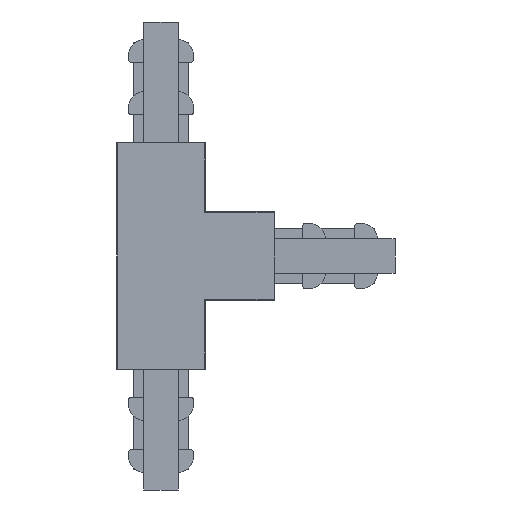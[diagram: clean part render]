
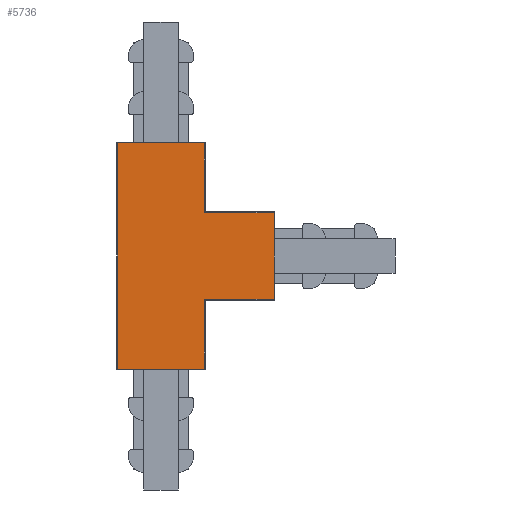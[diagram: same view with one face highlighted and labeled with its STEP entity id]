
A CAD part, front view. The second image highlights one B-rep face of the part: STEP entity #5736.
In plain terms, the highlighted planar face has unit normal (0, -1, 0).
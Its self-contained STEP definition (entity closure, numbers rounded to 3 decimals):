
#80 = DIRECTION ( 'NONE',  ( 0., 0., 1. ) ) ;
#468 = EDGE_CURVE ( 'NONE', #4994, #5615, #571, .T. ) ;
#571 = LINE ( 'NONE', #2514, #1236 ) ;
#598 = DIRECTION ( 'NONE',  ( 0., 1., 0. ) ) ;
#661 = DIRECTION ( 'NONE',  ( 0., 0., -1. ) ) ;
#692 = ORIENTED_EDGE ( 'NONE', *, *, #468, .T. ) ;
#721 = ORIENTED_EDGE ( 'NONE', *, *, #1644, .T. ) ;
#919 = CARTESIAN_POINT ( 'NONE',  ( 482.935, 139.387, 62.208 ) ) ;
#980 = DIRECTION ( 'NONE',  ( 1., 0., 0. ) ) ;
#999 = EDGE_CURVE ( 'NONE', #5786, #4994, #4551, .T. ) ;
#1001 = VECTOR ( 'NONE', #980, 1000. ) ;
#1071 = LINE ( 'NONE', #4955, #1330 ) ;
#1136 = PLANE ( 'NONE',  #3958 ) ;
#1214 = CARTESIAN_POINT ( 'NONE',  ( 420.727, 139.387, 90. ) ) ;
#1236 = VECTOR ( 'NONE', #80, 1000. ) ;
#1258 = CARTESIAN_POINT ( 'NONE',  ( 455.143, 139.387, 27.792 ) ) ;
#1299 = VECTOR ( 'NONE', #2865, 1000. ) ;
#1330 = VECTOR ( 'NONE', #5840, 1000. ) ;
#1532 = LINE ( 'NONE', #3354, #1001 ) ;
#1644 = EDGE_CURVE ( 'NONE', #4143, #3916, #3948, .T. ) ;
#1770 = EDGE_CURVE ( 'NONE', #2075, #3181, #1071, .T. ) ;
#1882 = ORIENTED_EDGE ( 'NONE', *, *, #1770, .F. ) ;
#1906 = ORIENTED_EDGE ( 'NONE', *, *, #999, .T. ) ;
#1972 = DIRECTION ( 'NONE',  ( 0., 0., -1. ) ) ;
#2014 = ORIENTED_EDGE ( 'NONE', *, *, #3224, .F. ) ;
#2075 = VERTEX_POINT ( 'NONE', #3715 ) ;
#2510 = FACE_OUTER_BOUND ( 'NONE', #4972, .T. ) ;
#2514 = CARTESIAN_POINT ( 'NONE',  ( 482.935, 139.387, 27.792 ) ) ;
#2827 = LINE ( 'NONE', #4766, #1299 ) ;
#2865 = DIRECTION ( 'NONE',  ( 1., 0., 0. ) ) ;
#2904 = CARTESIAN_POINT ( 'NONE',  ( 420.727, 139.387, 0. ) ) ;
#3045 = DIRECTION ( 'NONE',  ( 0., 0., 1. ) ) ;
#3181 = VERTEX_POINT ( 'NONE', #6226 ) ;
#3224 = EDGE_CURVE ( 'NONE', #3181, #5615, #1532, .T. ) ;
#3354 = CARTESIAN_POINT ( 'NONE',  ( 433.935, 139.387, 62.208 ) ) ;
#3376 = EDGE_CURVE ( 'NONE', #4794, #4143, #5026, .T. ) ;
#3471 = VECTOR ( 'NONE', #1972, 1000. ) ;
#3589 = DIRECTION ( 'NONE',  ( 1., 0., 0. ) ) ;
#3626 = VECTOR ( 'NONE', #661, 1000. ) ;
#3648 = CARTESIAN_POINT ( 'NONE',  ( 455.143, 139.387, 0. ) ) ;
#3715 = CARTESIAN_POINT ( 'NONE',  ( 455.143, 139.387, 90. ) ) ;
#3916 = VERTEX_POINT ( 'NONE', #3648 ) ;
#3948 = LINE ( 'NONE', #5880, #4191 ) ;
#3958 = AXIS2_PLACEMENT_3D ( 'NONE', #5053, #598, #3045 ) ;
#4143 = VERTEX_POINT ( 'NONE', #2904 ) ;
#4191 = VECTOR ( 'NONE', #5814, 1000. ) ;
#4475 = ORIENTED_EDGE ( 'NONE', *, *, #3376, .T. ) ;
#4551 = LINE ( 'NONE', #5437, #5817 ) ;
#4766 = CARTESIAN_POINT ( 'NONE',  ( 420.727, 139.387, 90. ) ) ;
#4794 = VERTEX_POINT ( 'NONE', #1214 ) ;
#4948 = ORIENTED_EDGE ( 'NONE', *, *, #4973, .F. ) ;
#4955 = CARTESIAN_POINT ( 'NONE',  ( 455.143, 139.387, 90. ) ) ;
#4956 = ORIENTED_EDGE ( 'NONE', *, *, #5886, .F. ) ;
#4972 = EDGE_LOOP ( 'NONE', ( #4948, #1906, #692, #2014, #1882, #4956, #4475, #721 ) ) ;
#4973 = EDGE_CURVE ( 'NONE', #5786, #3916, #5280, .T. ) ;
#4994 = VERTEX_POINT ( 'NONE', #5378 ) ;
#5026 = LINE ( 'NONE', #5054, #3626 ) ;
#5053 = CARTESIAN_POINT ( 'NONE',  ( 420.727, 139.387, 90. ) ) ;
#5054 = CARTESIAN_POINT ( 'NONE',  ( 420.727, 139.387, 90. ) ) ;
#5280 = LINE ( 'NONE', #6313, #3471 ) ;
#5378 = CARTESIAN_POINT ( 'NONE',  ( 482.935, 139.387, 27.792 ) ) ;
#5437 = CARTESIAN_POINT ( 'NONE',  ( 433.935, 139.387, 27.792 ) ) ;
#5615 = VERTEX_POINT ( 'NONE', #919 ) ;
#5736 = ADVANCED_FACE ( 'NONE', ( #2510 ), #1136, .F. ) ;
#5786 = VERTEX_POINT ( 'NONE', #1258 ) ;
#5814 = DIRECTION ( 'NONE',  ( 1., 0., 0. ) ) ;
#5817 = VECTOR ( 'NONE', #3589, 1000. ) ;
#5840 = DIRECTION ( 'NONE',  ( 0., 0., -1. ) ) ;
#5880 = CARTESIAN_POINT ( 'NONE',  ( 420.727, 139.387, 0. ) ) ;
#5886 = EDGE_CURVE ( 'NONE', #4794, #2075, #2827, .T. ) ;
#6226 = CARTESIAN_POINT ( 'NONE',  ( 455.143, 139.387, 62.208 ) ) ;
#6313 = CARTESIAN_POINT ( 'NONE',  ( 455.143, 139.387, 90. ) ) ;
